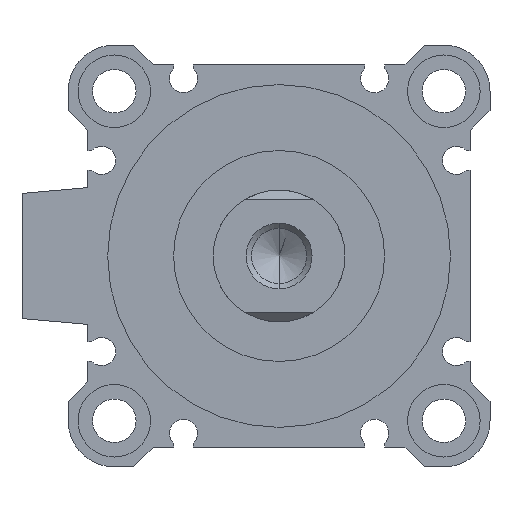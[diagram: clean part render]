
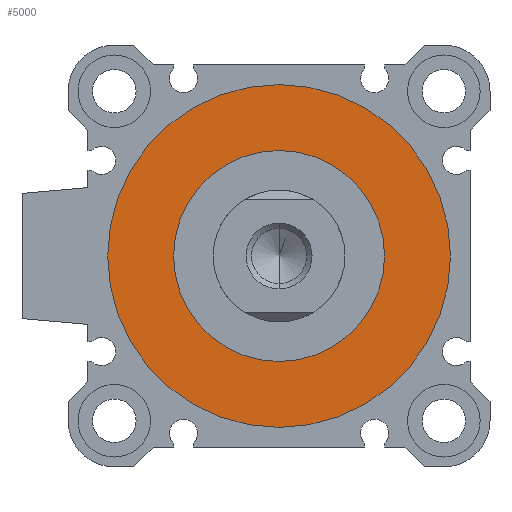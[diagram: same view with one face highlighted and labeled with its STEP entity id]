
A CAD part, left-side view. The second image highlights one B-rep face of the part: STEP entity #5000.
In plain terms, the highlighted planar face has unit normal (-1, 0, 0).
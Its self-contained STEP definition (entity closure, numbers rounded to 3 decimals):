
#117 = CARTESIAN_POINT ( 'NONE',  ( 3., 0., 0. ) ) ;
#213 = CARTESIAN_POINT ( 'NONE',  ( 3., 0., -26. ) ) ;
#356 = CARTESIAN_POINT ( 'NONE',  ( 3., 0., 26. ) ) ;
#463 = FACE_OUTER_BOUND ( 'NONE', #583, .T. ) ;
#583 = EDGE_LOOP ( 'NONE', ( #2494, #4746 ) ) ;
#589 = CARTESIAN_POINT ( 'NONE',  ( 3., 0., 16. ) ) ;
#658 = ORIENTED_EDGE ( 'NONE', *, *, #3425, .T. ) ;
#925 = CIRCLE ( 'NONE', #2550, 16. ) ;
#1003 = CARTESIAN_POINT ( 'NONE',  ( 3., 0., 0. ) ) ;
#1107 = AXIS2_PLACEMENT_3D ( 'NONE', #1153, #2711, #3893 ) ;
#1110 = CIRCLE ( 'NONE', #1107, 26. ) ;
#1153 = CARTESIAN_POINT ( 'NONE',  ( 3., 0., 0. ) ) ;
#1162 = VERTEX_POINT ( 'NONE', #213 ) ;
#1317 = AXIS2_PLACEMENT_3D ( 'NONE', #117, #4690, #4337 ) ;
#1385 = DIRECTION ( 'NONE',  ( 0., 0., -1. ) ) ;
#1423 = ORIENTED_EDGE ( 'NONE', *, *, #1645, .T. ) ;
#1645 = EDGE_CURVE ( 'NONE', #5021, #3969, #925, .T. ) ;
#1835 = EDGE_LOOP ( 'NONE', ( #658, #1423 ) ) ;
#2108 = EDGE_CURVE ( 'NONE', #1162, #4139, #3844, .T. ) ;
#2174 = AXIS2_PLACEMENT_3D ( 'NONE', #3660, #2483, #4027 ) ;
#2483 = DIRECTION ( 'NONE',  ( 1., 0., 0. ) ) ;
#2494 = ORIENTED_EDGE ( 'NONE', *, *, #4782, .F. ) ;
#2550 = AXIS2_PLACEMENT_3D ( 'NONE', #3641, #2956, #1385 ) ;
#2556 = DIRECTION ( 'NONE',  ( 1., 0., 0. ) ) ;
#2711 = DIRECTION ( 'NONE',  ( 1., 0., 0. ) ) ;
#2956 = DIRECTION ( 'NONE',  ( 1., 0., 0. ) ) ;
#3027 = AXIS2_PLACEMENT_3D ( 'NONE', #1003, #2556, #3028 ) ;
#3028 = DIRECTION ( 'NONE',  ( 0., 0., -1. ) ) ;
#3375 = CARTESIAN_POINT ( 'NONE',  ( 3., 0., -16. ) ) ;
#3425 = EDGE_CURVE ( 'NONE', #3969, #5021, #3743, .T. ) ;
#3641 = CARTESIAN_POINT ( 'NONE',  ( 3., 0., 0. ) ) ;
#3660 = CARTESIAN_POINT ( 'NONE',  ( 3., 0., 0. ) ) ;
#3743 = CIRCLE ( 'NONE', #1317, 16. ) ;
#3844 = CIRCLE ( 'NONE', #3027, 26. ) ;
#3893 = DIRECTION ( 'NONE',  ( 0., 0., -1. ) ) ;
#3969 = VERTEX_POINT ( 'NONE', #589 ) ;
#4007 = FACE_BOUND ( 'NONE', #1835, .T. ) ;
#4027 = DIRECTION ( 'NONE',  ( 0., 1., 0. ) ) ;
#4139 = VERTEX_POINT ( 'NONE', #356 ) ;
#4337 = DIRECTION ( 'NONE',  ( 0., 0., -1. ) ) ;
#4407 = PLANE ( 'NONE',  #2174 ) ;
#4690 = DIRECTION ( 'NONE',  ( 1., 0., 0. ) ) ;
#4746 = ORIENTED_EDGE ( 'NONE', *, *, #2108, .F. ) ;
#4782 = EDGE_CURVE ( 'NONE', #4139, #1162, #1110, .T. ) ;
#5000 = ADVANCED_FACE ( 'NONE', ( #463, #4007 ), #4407, .F. ) ;
#5021 = VERTEX_POINT ( 'NONE', #3375 ) ;
